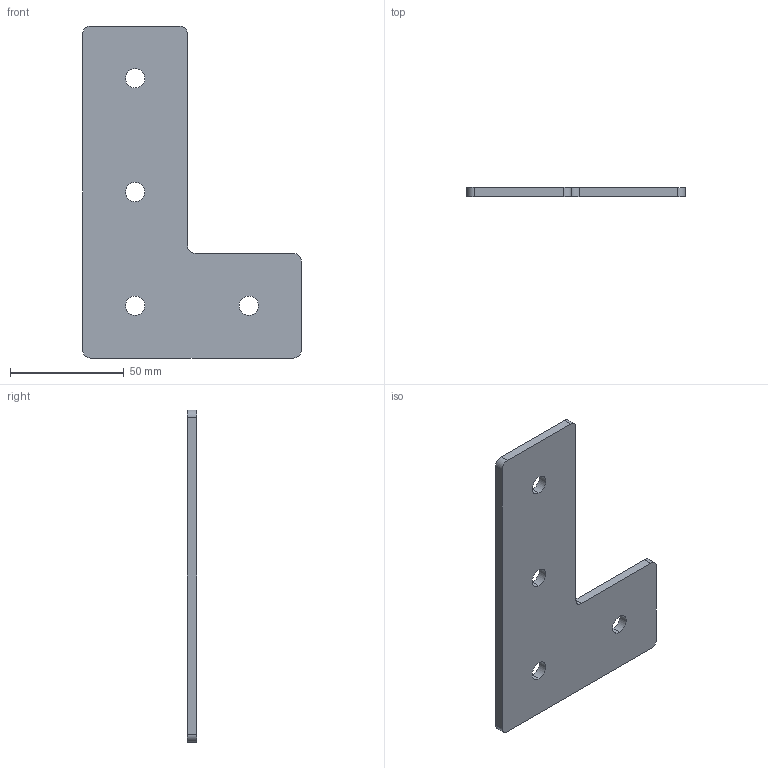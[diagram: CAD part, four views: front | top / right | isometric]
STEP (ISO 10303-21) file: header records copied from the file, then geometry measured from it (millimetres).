
FILE_DESCRIPTION (( 'STEP AP203' ), '1' );
FILE_NAME ('Ã-4-50.STEP', '2017-03-22T08:01:36', ( 'RosInstal-MKM' ), ( '' ), 'SwSTEP 2.0', 'SolidWorks 2014', '' );
FILE_SCHEMA (( 'CONFIG_CONTROL_DESIGN' ));
Length unit declared in the file: millimetre
Products named in the file (1): ﾃ-4-50
Bounding box: 96 x 4 x 146 mm (x, y, z)
Volume: 35117.2 mm3; surface area: 19887.2 mm2
Topology: 1 solids, 1 shells, 22 faces, 60 edges, 40 vertices
Faces by surface type: cylinder 14, plane 8
Entity records: 805 total; most frequent: DIRECTION 134, CARTESIAN_POINT 123, ORIENTED_EDGE 120, EDGE_CURVE 60, AXIS2_PLACEMENT_3D 51, VERTEX_POINT 40, VECTOR 32, LINE 32
